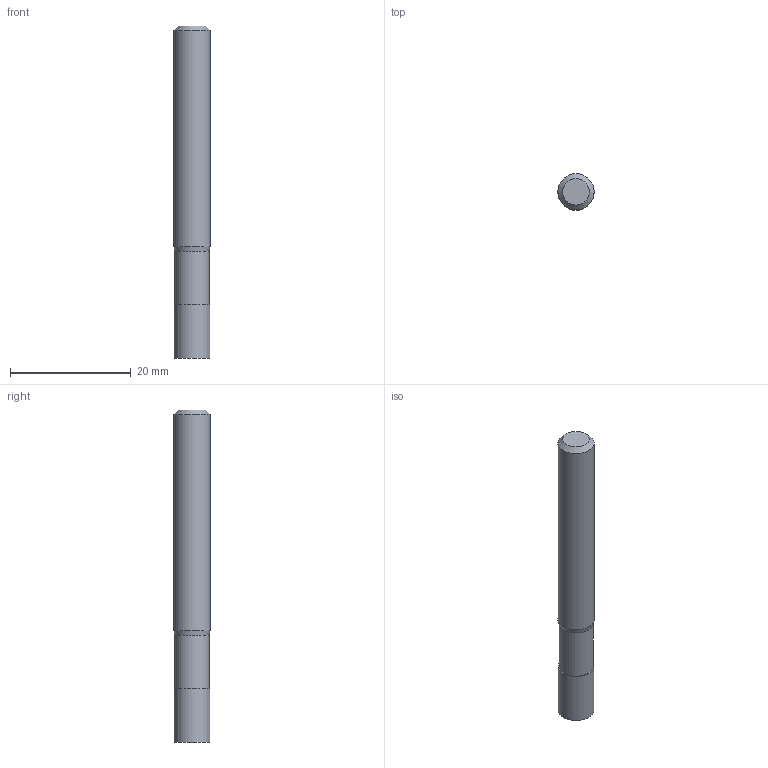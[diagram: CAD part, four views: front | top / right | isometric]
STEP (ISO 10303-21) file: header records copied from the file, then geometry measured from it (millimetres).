
FILE_DESCRIPTION((''),'2;1');
FILE_NAME('C:\Users\nsx150\AppData\Local\Temp\Mastercam 2021\EUJSUNXURU\TEMP.step','2021-04-22T10:28:46',(''),(''),'STEP Write','Mastercam 2021 ... CNC Software, Inc.','');
FILE_SCHEMA(('AUTOMOTIVE_DESIGN'));
Length unit declared in the file: millimetre
Products named in the file (1): None
Bounding box: 6 x 6 x 55 mm (x, y, z)
Volume: 1516 mm3; surface area: 1124.4 mm2
Topology: 2 solids, 2 shells, 9 faces, 12 edges, 7 vertices
Faces by surface type: plane 4, cylinder 3, cone 2
Full cylindrical faces by diameter (mm): 5.7 x1, 5.9 x1, 6 x1
Entity records: 211 total; most frequent: DIRECTION 36, CARTESIAN_POINT 25, AXIS2_PLACEMENT_3D 18, ORIENTED_EDGE 14, EDGE_LOOP 14, STYLED_ITEM 12, ADVANCED_FACE 9, FACE_BOUND 8
